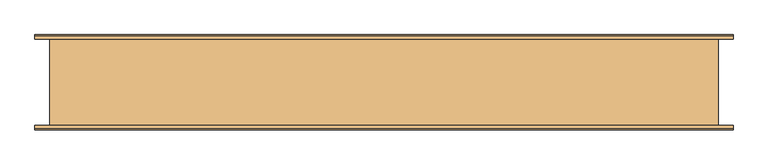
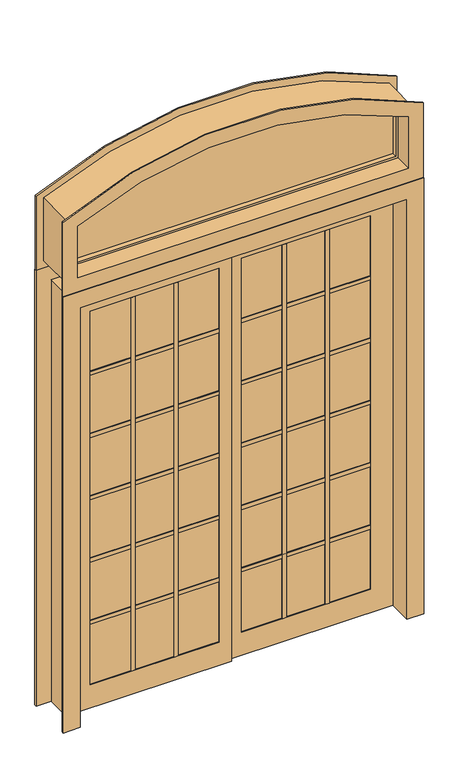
"""IFC4 building model written with IfcOpenShell, lengths in millimetres: door geometry, Pollard_Windows_Vistador Patio Doors_ATS_Extended Segmental : AVDR6080-EST1506_GC."""

from ifc_helpers import new_model, si_unit, point, frame, frame_2d, origin, place, context, project, spatial, polyline, circle_curve, trimmed, segment, composite_curve, outline, extrude, faceted_brep, source, transform, mapped, element, save
from ifc_brep_helpers import plane_surface, cylinder_surface, revolved_surface, advanced_brep


def door_b61d0d93(model_context):
    return source(origin(), model_context, "Body", "SolidModel", [
        extrude(outline(composite_curve([segment(trimmed(circle_curve(frame_2d((879.5048206, 0.0)), 1717.6665721), [point((2414.7086804, 770.4074))], [point((2414.7086804, -770.4074))], False, "CARTESIAN"), True, "CONTINUOUS"), segment(polyline([(2414.7086804, -770.4074), (2135.378, -770.4074), (2135.378, 770.4074), (2414.7086804, 770.4074)]), True, "CONTINUOUS")], self_intersect=False)), frame((0.0, -2.6145378, 0.0), z_axis=(0.0, 1.0, 0.0), x_axis=(0.0, 0.0, 1.0)), (0.0, 0.0, 1.0), 5.2290756),
        advanced_brep(
        [(770.4074, -25.4, 2135.378), (770.4074, 25.4, 2135.378), (770.4074, 25.4, 2414.7086804), (770.4074, -25.4, 2414.7086804), (740.4292258, -2.6145378, 2165.3561742), (740.4292258, -25.4, 2165.3561742), (740.4292258, -25.4, 2396.0985994), (740.4292258, -2.6145378, 2396.0985994), (750.0874, 2.6145378, 2155.698), (750.0874, -2.6145378, 2155.698), (750.0874, -2.6145378, 2402.1191113), (750.0874, 2.6145378, 2402.1191113), (740.4292258, 25.4, 2165.3561742), (740.4292258, 2.6145378, 2165.3561742), (740.4292258, 2.6145378, 2396.0985994), (740.4292258, 25.4, 2396.0985994), (-770.4074, -25.4, 2414.7086804), (-770.4074, 25.4, 2414.7086804), (-770.4074, -25.4, 2135.378), (-740.4292258, -25.4, 2396.0985994), (-740.4292258, -25.4, 2165.3561742), (-740.4292258, -2.6145378, 2396.0985994), (-750.0874, -2.6145378, 2402.1191113), (-750.0874, -2.6145378, 2155.698), (-740.4292258, -2.6145378, 2165.3561742), (-750.0874, 2.6145378, 2402.1191113), (-750.0874, 2.6145378, 2155.698), (-740.4292258, 2.6145378, 2396.0985994), (-740.4292258, 2.6145378, 2165.3561742), (-740.4292258, 25.4, 2396.0985994), (-770.4074, 25.4, 2135.378), (-740.4292258, 25.4, 2165.3561742)],
        [
            (0, 1),
            (1, 2),
            (2, 3),
            (3, 0),
            (4, 5),
            (5, 6),
            (6, 7),
            (7, 4),
            (8, 9),
            (9, 10),
            (10, 11),
            (11, 8),
            (12, 13),
            (13, 14),
            (14, 15),
            (15, 12),
            (16, 3, circle_curve(frame((0.0, -25.4, 879.5048206), z_axis=(0.0, 1.0, 0.0), x_axis=(0.45256734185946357, 0.0, 0.8917302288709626)), 1717.6665721)),
            (2, 17, circle_curve(frame((0.0, 25.4, 879.5048206), z_axis=(0.0, -1.0, 0.0), x_axis=(0.45256734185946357, 0.0, 0.8917302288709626)), 1717.6665721)),
            (17, 16),
            (16, 18),
            (18, 0),
            (19, 6, circle_curve(frame((0.0, -25.4, 879.5048206), z_axis=(0.0, 1.0, 0.0), x_axis=(0.45256734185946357, 0.0, 0.8917302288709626)), 1687.6883979)),
            (5, 20),
            (20, 19),
            (21, 7, circle_curve(frame((0.0, -2.6145378, 879.5048206), z_axis=(0.0, 1.0, 0.0), x_axis=(0.45256734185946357, 0.0, 0.8917302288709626)), 1687.6883979)),
            (19, 21),
            (22, 10, circle_curve(frame((0.0, -2.6145378, 879.5048206), z_axis=(0.0, 1.0, 0.0), x_axis=(0.45256734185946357, 0.0, 0.8917302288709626)), 1697.3465721)),
            (9, 23),
            (23, 22),
            (21, 24),
            (24, 4),
            (25, 11, circle_curve(frame((0.0, 2.6145378, 879.5048206), z_axis=(0.0, 1.0, 0.0), x_axis=(0.45256734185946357, 0.0, 0.8917302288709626)), 1697.3465721)),
            (22, 25),
            (25, 26),
            (26, 8),
            (27, 14, circle_curve(frame((0.0, 2.6145378, 879.5048206), z_axis=(0.0, 1.0, 0.0), x_axis=(0.45256734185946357, 0.0, 0.8917302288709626)), 1687.6883979)),
            (13, 28),
            (28, 27),
            (29, 15, circle_curve(frame((0.0, 25.4, 879.5048206), z_axis=(0.0, 1.0, 0.0), x_axis=(0.45256734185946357, 0.0, 0.8917302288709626)), 1687.6883979)),
            (27, 29),
            (1, 30),
            (30, 17),
            (29, 31),
            (31, 12),
            (30, 18),
            (20, 24),
            (23, 26),
            (28, 31),
        ],
        [
            plane_surface(frame((770.4074, 25.4, 2135.378), z_axis=(1.0, 0.0, 0.0), x_axis=(0.0, 0.0, 1.0))),
            plane_surface(frame((740.4292258, -25.4, 2165.3561742), z_axis=(-1.0, 0.0, 0.0), x_axis=(0.0, 0.0, 1.0))),
            plane_surface(frame((750.0874, -2.6145378, 2155.698), z_axis=(-1.0, 0.0, 0.0), x_axis=(0.0, 0.0, 1.0))),
            plane_surface(frame((740.4292258, 2.6145378, 2165.3561742), z_axis=(-1.0, 0.0, 0.0), x_axis=(0.0, 0.0, 1.0))),
            cylinder_surface(frame((0.0, 0.0, 879.5048206), z_axis=(0.0, -1.0, 0.0), x_axis=(0.45256734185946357, 0.0, 0.8917302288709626)), 1717.6665721),
            plane_surface(frame((0.0, -25.4, 879.5048206), z_axis=(0.0, -1.0, 0.0), x_axis=(0.45256734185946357, 0.0, 0.8917302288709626))),
            revolved_surface(polyline([(763.7926521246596, -25.4, 2384.4675819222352), (763.7926521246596, -2.6145378, 2384.4675819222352)]), (0.0, 0.0, 879.5048206), (0.0, -1.0, 0.0)),
            plane_surface(frame((0.0, -2.6145378, 879.5048206), z_axis=(0.0, 1.0, 0.0), x_axis=(0.45256734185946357, 0.0, 0.8917302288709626))),
            revolved_surface(polyline([(768.1636263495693, -2.6145378, 2393.080067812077), (768.1636263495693, 2.6145378, 2393.080067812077)]), (0.0, 0.0, 879.5048206), (0.0, -1.0, 0.0)),
            plane_surface(frame((0.0, 2.6145378, 879.5048206), z_axis=(0.0, -1.0, 0.0), x_axis=(0.45256734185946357, 0.0, 0.8917302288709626))),
            revolved_surface(polyline([(763.7926521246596, 2.6145378, 2384.4675819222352), (763.7926521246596, 25.4, 2384.4675819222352)]), (0.0, 0.0, 879.5048206), (0.0, -1.0, 0.0)),
            plane_surface(frame((0.0, 25.4, 879.5048206), z_axis=(0.0, 1.0, 0.0), x_axis=(0.45256734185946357, 0.0, 0.8917302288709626))),
            plane_surface(frame((-770.4074, 25.4, 2414.7086804), z_axis=(-1.0, 0.0, 0.0), x_axis=(0.0, 0.0, -1.0))),
            plane_surface(frame((-740.4292258, -25.4, 2396.0985994), z_axis=(1.0, 0.0, 0.0), x_axis=(0.0, 0.0, -1.0))),
            plane_surface(frame((-750.0874, -2.6145378, 2402.1191113), z_axis=(1.0, 0.0, 0.0), x_axis=(0.0, 0.0, -1.0))),
            plane_surface(frame((-740.4292258, 2.6145378, 2396.0985994), z_axis=(1.0, 0.0, 0.0), x_axis=(0.0, 0.0, -1.0))),
            plane_surface(frame((-770.4074, 25.4, 2135.378), z_axis=(0.0, 0.0, -1.0), x_axis=(1.0, 0.0, 0.0))),
            plane_surface(frame((-740.4292258, -25.4, 2165.3561742), z_axis=(0.0, 0.0, 1.0), x_axis=(1.0, 0.0, 0.0))),
            plane_surface(frame((-750.0874, -2.6145378, 2155.698), z_axis=(0.0, 0.0, 1.0), x_axis=(1.0, 0.0, 0.0))),
            plane_surface(frame((-740.4292258, 2.6145378, 2165.3561742), z_axis=(0.0, 0.0, 1.0), x_axis=(1.0, 0.0, 0.0))),
        ],
        [
            (0, [[1, 2, 3, 4]]),
            (1, [[5, 6, 7, 8]]),
            (2, [[9, 10, 11, 12]]),
            (3, [[13, 14, 15, 16]]),
            (4, [[17, -3, 18, 19]]),
            (5, [[-17, 20, 21, -4], [22, -6, 23, 24]]),
            (6, [[25, -7, -22, 26]]),
            (7, [[27, -10, 28, 29], [-25, 30, 31, -8]]),
            (8, [[32, -11, -27, 33]]),
            (9, [[-32, 34, 35, -12], [36, -14, 37, 38]]),
            (10, [[39, -15, -36, 40]]),
            (11, [[-18, -2, 41, 42], [-39, 43, 44, -16]]),
            (12, [[-19, -42, 45, -20]]),
            (13, [[-26, -24, 46, -30]]),
            (14, [[-33, -29, 47, -34]]),
            (15, [[-40, -38, 48, -43]]),
            (16, [[-45, -41, -1, -21]]),
            (17, [[-46, -23, -5, -31]]),
            (18, [[-47, -28, -9, -35]]),
            (19, [[-48, -37, -13, -44]]),
        ],
    ),
        advanced_brep(
        [(-818.2864, -107.95, 2443.972313), (-818.2864, -101.6, 2443.972313), (-818.2864, -101.6, 2087.499), (-818.2864, -107.95, 2087.499), (-750.0874, -25.4, 2402.1191113), (-750.0874, -101.6, 2402.1191113), (-750.0874, -107.95, 2402.1191113), (-750.0874, -107.95, 2155.698), (-750.0874, -25.4, 2155.698), (-770.4074, 25.4, 2414.7086804), (-770.4074, -25.4, 2414.7086804), (-770.4074, -25.4, 2135.378), (-770.4074, 25.4, 2135.378), (-750.0874, 107.95, 2402.1191113), (-750.0874, 25.4, 2402.1191113), (-750.0874, 25.4, 2155.698), (-750.0874, 107.95, 2155.698), (-818.2864, 101.6, 2443.972313), (-818.2864, 107.95, 2443.972313), (-818.2864, 107.95, 2087.499), (-818.2864, 101.6, 2087.499), (-783.1074, -101.6, 2422.525), (-783.1074, 101.6, 2422.525), (-783.1074, 101.6, 2122.678), (-783.1074, -101.6, 2122.678), (818.2864, -101.6, 2087.499), (818.2864, -107.95, 2087.499), (750.0874, -107.95, 2155.698), (750.0874, -25.4, 2155.698), (770.4074, -25.4, 2135.378), (770.4074, 25.4, 2135.378), (750.0874, 25.4, 2155.698), (750.0874, 107.95, 2155.698), (818.2864, 107.95, 2087.499), (818.2864, 101.6, 2087.499), (783.1074, 101.6, 2122.678), (783.1074, -101.6, 2122.678), (818.2864, -101.6, 2443.972313), (818.2864, -107.95, 2443.972313), (750.0874, -107.95, 2402.1191113), (750.0874, -101.6, 2402.1191113), (750.0874, -25.4, 2402.1191113), (770.4074, -25.4, 2414.7086804), (770.4074, 25.4, 2414.7086804), (750.0874, 25.4, 2402.1191113), (750.0874, 107.95, 2402.1191113), (818.2864, 107.95, 2443.972313), (818.2864, 101.6, 2443.972313), (783.1074, 101.6, 2422.525), (783.1074, -101.6, 2422.525)],
        [
            (0, 1),
            (1, 2),
            (2, 3),
            (3, 0),
            (4, 5),
            (5, 6),
            (6, 7),
            (7, 8),
            (8, 4),
            (9, 10),
            (10, 11),
            (11, 12),
            (12, 9),
            (13, 14),
            (14, 15),
            (15, 16),
            (16, 13),
            (17, 18),
            (18, 19),
            (19, 20),
            (20, 17),
            (21, 22),
            (22, 23),
            (23, 24),
            (24, 21),
            (2, 25),
            (25, 26),
            (26, 3),
            (7, 27),
            (27, 28),
            (28, 8),
            (11, 29),
            (29, 30),
            (30, 12),
            (15, 31),
            (31, 32),
            (32, 16),
            (19, 33),
            (33, 34),
            (34, 20),
            (23, 35),
            (35, 36),
            (36, 24),
            (25, 37),
            (37, 38),
            (38, 26),
            (27, 39),
            (39, 40),
            (40, 41),
            (41, 28),
            (29, 42),
            (42, 43),
            (43, 30),
            (31, 44),
            (44, 45),
            (45, 32),
            (33, 46),
            (46, 47),
            (47, 34),
            (35, 48),
            (48, 49),
            (49, 36),
            (1, 37, circle_curve(frame((0.0, -101.6, 879.5048206), z_axis=(0.0, 1.0, 0.0), x_axis=(0.452567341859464, 0.0, 0.8917302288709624)), 1765.5455721)),
            (49, 21, circle_curve(frame((0.0, -101.6, 879.5048206), z_axis=(0.0, -1.0, 0.0), x_axis=(0.452567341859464, 0.0, 0.8917302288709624)), 1730.3665721)),
            (0, 38, circle_curve(frame((0.0, -107.95, 879.5048206), z_axis=(0.0, 1.0, 0.0), x_axis=(0.452567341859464, 0.0, 0.8917302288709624)), 1765.5455721)),
            (6, 39, circle_curve(frame((0.0, -107.95, 879.5048206), z_axis=(0.0, 1.0, 0.0), x_axis=(0.452567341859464, 0.0, 0.8917302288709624)), 1697.3465721)),
            (5, 40, circle_curve(frame((0.0, -101.6, 879.5048206), z_axis=(0.0, 1.0, 0.0), x_axis=(0.452567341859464, 0.0, 0.8917302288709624)), 1697.3465721)),
            (4, 41, circle_curve(frame((0.0, -25.4, 879.5048206), z_axis=(0.0, 1.0, 0.0), x_axis=(0.452567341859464, 0.0, 0.8917302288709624)), 1697.3465721)),
            (10, 42, circle_curve(frame((0.0, -25.4, 879.5048206), z_axis=(0.0, 1.0, 0.0), x_axis=(0.452567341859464, 0.0, 0.8917302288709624)), 1717.6665721)),
            (9, 43, circle_curve(frame((0.0, 25.4, 879.5048206), z_axis=(0.0, 1.0, 0.0), x_axis=(0.452567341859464, 0.0, 0.8917302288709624)), 1717.6665721)),
            (14, 44, circle_curve(frame((0.0, 25.4, 879.5048206), z_axis=(0.0, 1.0, 0.0), x_axis=(0.452567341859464, 0.0, 0.8917302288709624)), 1697.3465721)),
            (13, 45, circle_curve(frame((0.0, 107.95, 879.5048206), z_axis=(0.0, 1.0, 0.0), x_axis=(0.452567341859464, 0.0, 0.8917302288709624)), 1697.3465721)),
            (18, 46, circle_curve(frame((0.0, 107.95, 879.5048206), z_axis=(0.0, 1.0, 0.0), x_axis=(0.452567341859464, 0.0, 0.8917302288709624)), 1765.5455721)),
            (17, 47, circle_curve(frame((0.0, 101.6, 879.5048206), z_axis=(0.0, 1.0, 0.0), x_axis=(0.452567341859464, 0.0, 0.8917302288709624)), 1765.5455721)),
            (22, 48, circle_curve(frame((0.0, 101.6, 879.5048206), z_axis=(0.0, 1.0, 0.0), x_axis=(0.452567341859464, 0.0, 0.8917302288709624)), 1730.3665721)),
        ],
        [
            plane_surface(frame((-818.2864, -101.6, 2443.972313), z_axis=(-1.0, 0.0, 0.0), x_axis=(0.0, 0.0, -1.0))),
            plane_surface(frame((-750.0874, -101.6, 2402.1191113), z_axis=(1.0, 0.0, 0.0), x_axis=(0.0, 0.0, -1.0))),
            plane_surface(frame((-770.4074, -25.4, 2414.7086804), z_axis=(1.0, 0.0, 0.0), x_axis=(0.0, 0.0, -1.0))),
            plane_surface(frame((-750.0874, 25.4, 2402.1191113), z_axis=(1.0, 0.0, 0.0), x_axis=(0.0, 0.0, -1.0))),
            plane_surface(frame((-818.2864, 107.95, 2443.972313), z_axis=(-1.0, 0.0, 0.0), x_axis=(0.0, 0.0, -1.0))),
            plane_surface(frame((-783.1074, 101.6, 2422.525), z_axis=(-1.0, 0.0, 0.0), x_axis=(0.0, 0.0, -1.0))),
            plane_surface(frame((-818.2864, -101.6, 2087.499), z_axis=(0.0, 0.0, -1.0), x_axis=(1.0, 0.0, 0.0))),
            plane_surface(frame((-750.0874, -101.6, 2155.698), z_axis=(0.0, 0.0, 1.0), x_axis=(1.0, 0.0, 0.0))),
            plane_surface(frame((-770.4074, -25.4, 2135.378), z_axis=(0.0, 0.0, 1.0), x_axis=(1.0, 0.0, 0.0))),
            plane_surface(frame((-750.0874, 25.4, 2155.698), z_axis=(0.0, 0.0, 1.0), x_axis=(1.0, 0.0, 0.0))),
            plane_surface(frame((-818.2864, 107.95, 2087.499), z_axis=(0.0, 0.0, -1.0), x_axis=(1.0, 0.0, 0.0))),
            plane_surface(frame((-783.1074, 101.6, 2122.678), z_axis=(0.0, 0.0, -1.0), x_axis=(1.0, 0.0, 0.0))),
            plane_surface(frame((818.2864, -101.6, 2087.499), z_axis=(1.0, 0.0, 0.0), x_axis=(0.0, 0.0, 1.0))),
            plane_surface(frame((750.0874, -101.6, 2155.698), z_axis=(-1.0, 0.0, 0.0), x_axis=(0.0, 0.0, 1.0))),
            plane_surface(frame((770.4074, -25.4, 2135.378), z_axis=(-1.0, 0.0, 0.0), x_axis=(0.0, 0.0, 1.0))),
            plane_surface(frame((750.0874, 25.4, 2155.698), z_axis=(-1.0, 0.0, 0.0), x_axis=(0.0, 0.0, 1.0))),
            plane_surface(frame((818.2864, 107.95, 2087.499), z_axis=(1.0, 0.0, 0.0), x_axis=(0.0, 0.0, 1.0))),
            plane_surface(frame((783.1074, 101.6, 2122.678), z_axis=(1.0, 0.0, 0.0), x_axis=(0.0, 0.0, 1.0))),
            plane_surface(frame((0.0, -101.6, 879.5048206), z_axis=(0.0, 1.0, 0.0), x_axis=(0.452567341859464, 0.0, 0.8917302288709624))),
            cylinder_surface(frame((0.0, 101.6, 879.5048206), z_axis=(0.0, -1.0, 0.0), x_axis=(0.452567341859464, 0.0, 0.8917302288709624)), 1765.5455721),
            plane_surface(frame((0.0, -107.95, 879.5048206), z_axis=(0.0, -1.0, 0.0), x_axis=(0.452567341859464, 0.0, 0.8917302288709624))),
            revolved_surface(polyline([(768.1636263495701, -107.95000000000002, 2393.0800678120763), (768.1636263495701, -101.6, 2393.0800678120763)]), (0.0, 101.6, 879.5048206), (0.0, -1.0, 0.0)),
            revolved_surface(polyline([(768.1636263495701, -101.6, 2393.0800678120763), (768.1636263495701, -25.400000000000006, 2393.0800678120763)]), (0.0, 101.6, 879.5048206), (0.0, -1.0, 0.0)),
            plane_surface(frame((0.0, -25.4, 879.5048206), z_axis=(0.0, 1.0, 0.0), x_axis=(0.452567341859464, 0.0, 0.8917302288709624))),
            revolved_surface(polyline([(777.3597947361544, -25.400000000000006, 2411.2000260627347), (777.3597947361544, 25.400000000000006, 2411.2000260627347)]), (0.0, 101.6, 879.5048206), (0.0, -1.0, 0.0)),
            plane_surface(frame((0.0, 25.4, 879.5048206), z_axis=(0.0, -1.0, 0.0), x_axis=(0.452567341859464, 0.0, 0.8917302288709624))),
            revolved_surface(polyline([(768.1636263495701, 25.400000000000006, 2393.0800678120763), (768.1636263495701, 107.95, 2393.0800678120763)]), (0.0, 101.6, 879.5048206), (0.0, -1.0, 0.0)),
            plane_surface(frame((0.0, 107.95, 879.5048206), z_axis=(0.0, 1.0, 0.0), x_axis=(0.452567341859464, 0.0, 0.8917302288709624))),
            plane_surface(frame((0.0, 101.6, 879.5048206), z_axis=(0.0, -1.0, 0.0), x_axis=(0.452567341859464, 0.0, 0.8917302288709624))),
            cylinder_surface(frame((0.0, 101.6, 879.5048206), z_axis=(0.0, -1.0, 0.0), x_axis=(0.452567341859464, 0.0, 0.8917302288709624)), 1730.3665721),
        ],
        [
            (0, [[1, 2, 3, 4]]),
            (1, [[5, 6, 7, 8, 9]]),
            (2, [[10, 11, 12, 13]]),
            (3, [[14, 15, 16, 17]]),
            (4, [[18, 19, 20, 21]]),
            (5, [[22, 23, 24, 25]]),
            (6, [[-3, 26, 27, 28]]),
            (7, [[-8, 29, 30, 31]]),
            (8, [[-12, 32, 33, 34]]),
            (9, [[-16, 35, 36, 37]]),
            (10, [[-20, 38, 39, 40]]),
            (11, [[-24, 41, 42, 43]]),
            (12, [[-27, 44, 45, 46]]),
            (13, [[-30, 47, 48, 49, 50]]),
            (14, [[-33, 51, 52, 53]]),
            (15, [[-36, 54, 55, 56]]),
            (16, [[-39, 57, 58, 59]]),
            (17, [[-42, 60, 61, 62]]),
            (18, [[63, -44, -26, -2], [-43, -62, 64, -25]]),
            (19, [[65, -45, -63, -1]]),
            (20, [[-28, -46, -65, -4], [66, -47, -29, -7]]),
            (21, [[67, -48, -66, -6]]),
            (22, [[68, -49, -67, -5]]),
            (23, [[69, -51, -32, -11], [-31, -50, -68, -9]]),
            (24, [[70, -52, -69, -10]]),
            (25, [[-34, -53, -70, -13], [71, -54, -35, -15]]),
            (26, [[72, -55, -71, -14]]),
            (27, [[73, -57, -38, -19], [-37, -56, -72, -17]]),
            (19, [[74, -58, -73, -18]]),
            (28, [[-40, -59, -74, -21], [75, -60, -41, -23]]),
            (29, [[-64, -61, -75, -22]]),
        ],
    ),
        extrude(outline(polyline([(-54.991, -10.0399998), (-640.1054, -10.0399998), (-640.1054, -4.9599998), (-54.991, -4.9599998), (-54.991, -10.0399998)])), frame((0.0, 0.0, 109.982), z_axis=(0.0, 0.0, 1.0), x_axis=(1.0, 0.0, 0.0)), (0.0, 0.0, 1.0), 1790.586),
        extrude(outline(polyline([(454.0672667, 14.9999996), (454.0672667, 9.9999998), (449.0672667, 9.9999998), (449.0672667, 4.9999998), (454.0672667, 4.9999998), (454.0672667, 0.0), (436.0672667, 0.0), (436.0672667, 4.9999998), (441.0672667, 4.9999998), (441.0672667, 9.9999998), (436.0672667, 9.9999998), (436.0672667, 14.9999996), (454.0672667, 14.9999996)])), frame((0.0, 0.0, 109.982), z_axis=(0.0, 0.0, 1.0), x_axis=(1.0, 0.0, 0.0)), (0.0, 0.0, 1.0), 1790.586),
        extrude(outline(polyline([(259.0291333, 14.9999996), (259.0291333, 9.9999998), (254.0291333, 9.9999998), (254.0291333, 4.9999998), (259.0291333, 4.9999998), (259.0291333, 0.0), (241.0291333, 0.0), (241.0291333, 4.9999998), (246.0291333, 4.9999998), (246.0291333, 9.9999998), (241.0291333, 9.9999998), (241.0291333, 14.9999996), (259.0291333, 14.9999996)])), frame((0.0, 0.0, 109.982), z_axis=(0.0, 0.0, 1.0), x_axis=(1.0, 0.0, 0.0)), (0.0, 0.0, 1.0), 1790.586),
        extrude(outline(polyline([(-241.0291333, 0.0), (-241.0291333, -4.9999998), (-246.0291333, -4.9999998), (-246.0291333, -9.9999998), (-241.0291333, -9.9999998), (-241.0291333, -14.9999996), (-259.0291333, -14.9999996), (-259.0291333, -9.9999998), (-254.0291333, -9.9999998), (-254.0291333, -4.9999998), (-259.0291333, -4.9999998), (-259.0291333, 0.0), (-241.0291333, 0.0)])), frame((0.0, 0.0, 109.982), z_axis=(0.0, 0.0, 1.0), x_axis=(1.0, 0.0, 0.0)), (0.0, 0.0, 1.0), 1790.586),
        extrude(outline(polyline([(-436.0672667, 0.0), (-436.0672667, -4.9999998), (-441.0672667, -4.9999998), (-441.0672667, -9.9999998), (-436.0672667, -9.9999998), (-436.0672667, -14.9999996), (-454.0672667, -14.9999996), (-454.0672667, -9.9999998), (-449.0672667, -9.9999998), (-449.0672667, -4.9999998), (-454.0672667, -4.9999998), (-454.0672667, 0.0), (-436.0672667, 0.0)])), frame((0.0, 0.0, 109.982), z_axis=(0.0, 0.0, 1.0), x_axis=(1.0, 0.0, 0.0)), (0.0, 0.0, 1.0), 1790.586),
        extrude(outline(polyline([(54.991, 10.0399998), (640.1054, 10.0399998), (640.1054, 4.9599998), (54.991, 4.9599998), (54.991, 10.0399998)])), frame((0.0, 0.0, 109.982), z_axis=(0.0, 0.0, 1.0), x_axis=(1.0, 0.0, 0.0)), (0.0, 0.0, 1.0), 1790.586),
        extrude(outline(polyline([(2010.55, 741.3374), (2010.55, 0.0), (0.0, 0.0), (0.0, 741.3374), (2010.55, 741.3374)]), holes=[polyline([(109.982, 640.1054), (109.982, 54.991), (1900.568, 54.991), (1900.568, 640.1054), (109.982, 640.1054)])]), frame((0.0, 0.0, 0.0), z_axis=(0.0, 1.0, 0.0), x_axis=(0.0, 0.0, 1.0)), (0.0, 0.0, 1.0), 14.9999996),
        extrude(outline(polyline([(2010.55, -741.3374), (0.0, -741.3374), (0.0, 0.0), (2010.55, 0.0), (2010.55, -741.3374)]), holes=[polyline([(1900.568, -640.1054), (1900.568, -54.991), (109.982, -54.991), (109.982, -640.1054), (1900.568, -640.1054)])]), frame((0.0, -14.9999996, 0.0), z_axis=(0.0, 1.0, 0.0), x_axis=(0.0, 0.0, 1.0)), (0.0, 0.0, 1.0), 14.9999996),
        faceted_brep([(818.2864, 111.6, 0.0), (818.2864, 101.6, 0.0), (750.0874, 101.6, 0.0), (750.0874, -101.6, 0.0), (818.2864, -101.6, 0.0), (818.2864, -111.6, 0.0), (741.3374, -111.6, 0.0), (741.3374, 111.6, 0.0), (818.2864, 111.6, 2087.499), (818.2864, 101.6, 2087.499), (-818.2864, 101.6, 2087.499), (-818.2864, 101.6, 0.0), (-750.0874, 101.6, 0.0), (-750.0874, 101.6, 2019.3), (750.0874, 101.6, 2019.3), (750.0874, -101.6, 2019.3), (-750.0874, -101.6, 2019.3), (-750.0874, -101.6, 0.0), (-818.2864, -101.6, 0.0), (-818.2864, -101.6, 2087.499), (818.2864, -101.6, 2087.499), (818.2864, -111.6, 2087.499), (-818.2864, -111.6, 2087.499), (-818.2864, -111.6, 0.0), (-741.3374, -111.6, 0.0), (-741.3374, -111.6, 2010.55), (741.3374, -111.6, 2010.55), (741.3374, 111.6, 2010.55), (-741.3374, 111.6, 2010.55), (-741.3374, 111.6, 0.0), (-818.2864, 111.6, 0.0), (-818.2864, 111.6, 2087.499)], [[[0, 1, 2, 3, 4, 5, 6, 7]], [[1, 0, 8, 9]], [[2, 1, 9, 10, 11, 12, 13, 14]], [[2, 14, 15, 3]], [[4, 3, 15, 16, 17, 18, 19, 20]], [[5, 4, 20, 21]], [[6, 5, 21, 22, 23, 24, 25, 26]], [[6, 26, 27, 7]], [[0, 7, 27, 28, 29, 30, 31, 8]], [[30, 29, 24, 23, 18, 17, 12, 11]], [[28, 25, 24, 29]], [[22, 19, 18, 23]], [[16, 13, 12, 17]], [[10, 31, 30, 11]], [[9, 8, 31, 10]], [[27, 26, 25, 28]], [[15, 14, 13, 16]], [[21, 20, 19, 22]]]),
        extrude(outline(polyline([(14.9999996, 1014.275), (14.9999996, 996.275), (9.9999998, 996.275), (9.9999998, 1001.275), (4.9999998, 1001.275), (4.9999998, 996.275), (0.0, 996.275), (0.0, 1014.275), (4.9999998, 1014.275), (4.9999998, 1009.275), (9.9999998, 1009.275), (9.9999998, 1014.275), (14.9999996, 1014.275)])), frame((54.991, 0.0, 0.0), z_axis=(1.0, 0.0, 0.0), x_axis=(0.0, 1.0, 0.0)), (0.0, 0.0, 1.0), 585.1144),
        extrude(outline(polyline([(14.9999996, 1611.137), (14.9999996, 1593.137), (9.9999998, 1593.137), (9.9999998, 1598.137), (4.9999998, 1598.137), (4.9999998, 1593.137), (0.0, 1593.137), (0.0, 1611.137), (4.9999998, 1611.137), (4.9999998, 1606.137), (9.9999998, 1606.137), (9.9999998, 1611.137), (14.9999996, 1611.137)])), frame((54.991, 0.0, 0.0), z_axis=(1.0, 0.0, 0.0), x_axis=(0.0, 1.0, 0.0)), (0.0, 0.0, 1.0), 585.1144),
        extrude(outline(polyline([(-14.9999996, 1593.137), (-14.9999996, 1611.137), (-9.9999998, 1611.137), (-9.9999998, 1606.137), (-4.9999998, 1606.137), (-4.9999998, 1611.137), (0.0, 1611.137), (0.0, 1593.137), (-4.9999998, 1593.137), (-4.9999998, 1598.137), (-9.9999998, 1598.137), (-9.9999998, 1593.137), (-14.9999996, 1593.137)])), frame((-640.1054, 0.0, 0.0), z_axis=(1.0, 0.0, 0.0), x_axis=(0.0, 1.0, 0.0)), (0.0, 0.0, 1.0), 585.1144),
        extrude(outline(polyline([(14.9999996, 1312.706), (14.9999996, 1294.706), (9.9999998, 1294.706), (9.9999998, 1299.706), (4.9999998, 1299.706), (4.9999998, 1294.706), (0.0, 1294.706), (0.0, 1312.706), (4.9999998, 1312.706), (4.9999998, 1307.706), (9.9999998, 1307.706), (9.9999998, 1312.706), (14.9999996, 1312.706)])), frame((54.991, 0.0, 0.0), z_axis=(1.0, 0.0, 0.0), x_axis=(0.0, 1.0, 0.0)), (0.0, 0.0, 1.0), 585.1144),
        extrude(outline(polyline([(-14.9999996, 1294.706), (-14.9999996, 1312.706), (-9.9999998, 1312.706), (-9.9999998, 1307.706), (-4.9999998, 1307.706), (-4.9999998, 1312.706), (0.0, 1312.706), (0.0, 1294.706), (-4.9999998, 1294.706), (-4.9999998, 1299.706), (-9.9999998, 1299.706), (-9.9999998, 1294.706), (-14.9999996, 1294.706)])), frame((-640.1054, 0.0, 0.0), z_axis=(1.0, 0.0, 0.0), x_axis=(0.0, 1.0, 0.0)), (0.0, 0.0, 1.0), 585.1144),
        extrude(outline(polyline([(14.9999996, 715.844), (14.9999996, 697.844), (9.9999998, 697.844), (9.9999998, 702.844), (4.9999998, 702.844), (4.9999998, 697.844), (0.0, 697.844), (0.0, 715.844), (4.9999998, 715.844), (4.9999998, 710.844), (9.9999998, 710.844), (9.9999998, 715.844), (14.9999996, 715.844)])), frame((54.991, 0.0, 0.0), z_axis=(1.0, 0.0, 0.0), x_axis=(0.0, 1.0, 0.0)), (0.0, 0.0, 1.0), 585.1144),
        extrude(outline(polyline([(-14.9999996, 697.844), (-14.9999996, 715.844), (-9.9999998, 715.844), (-9.9999998, 710.844), (-4.9999998, 710.844), (-4.9999998, 715.844), (0.0, 715.844), (0.0, 697.844), (-4.9999998, 697.844), (-4.9999998, 702.844), (-9.9999998, 702.844), (-9.9999998, 697.844), (-14.9999996, 697.844)])), frame((-640.1054, 0.0, 0.0), z_axis=(1.0, 0.0, 0.0), x_axis=(0.0, 1.0, 0.0)), (0.0, 0.0, 1.0), 585.1144),
        extrude(outline(polyline([(14.9999996, 417.413), (14.9999996, 399.413), (9.9999998, 399.413), (9.9999998, 404.413), (4.9999998, 404.413), (4.9999998, 399.413), (0.0, 399.413), (0.0, 417.413), (4.9999998, 417.413), (4.9999998, 412.413), (9.9999998, 412.413), (9.9999998, 417.413), (14.9999996, 417.413)])), frame((54.991, 0.0, 0.0), z_axis=(1.0, 0.0, 0.0), x_axis=(0.0, 1.0, 0.0)), (0.0, 0.0, 1.0), 585.1144),
        extrude(outline(polyline([(-14.9999996, 399.413), (-14.9999996, 417.413), (-9.9999998, 417.413), (-9.9999998, 412.413), (-4.9999998, 412.413), (-4.9999998, 417.413), (0.0, 417.413), (0.0, 399.413), (-4.9999998, 399.413), (-4.9999998, 404.413), (-9.9999998, 404.413), (-9.9999998, 399.413), (-14.9999996, 399.413)])), frame((-640.1054, 0.0, 0.0), z_axis=(1.0, 0.0, 0.0), x_axis=(0.0, 1.0, 0.0)), (0.0, 0.0, 1.0), 585.1144),
        extrude(outline(polyline([(-14.9999996, 996.275), (-14.9999996, 1014.275), (-9.9999998, 1014.275), (-9.9999998, 1009.275), (-4.9999998, 1009.275), (-4.9999998, 1014.275), (0.0, 1014.275), (0.0, 996.275), (-4.9999998, 996.275), (-4.9999998, 1001.275), (-9.9999998, 1001.275), (-9.9999998, 996.275), (-14.9999996, 996.275)])), frame((-640.1054, 0.0, 0.0), z_axis=(1.0, 0.0, 0.0), x_axis=(0.0, 1.0, 0.0)), (0.0, 0.0, 1.0), 585.1144),
    ])


if __name__ == "__main__":
    model = new_model("IFC4")
    model_context = context("Model", 3, world=origin())
    ifc_project = project(units=[si_unit("LENGTHUNIT", "METRE", prefix="MILLI")], contexts=[model_context])
    site = spatial("IfcSite", under=ifc_project)
    building = spatial("IfcBuilding", under=site)
    placement = place(None, origin())
    door_shape = door_b61d0d93(model_context)
    element("IfcDoor", 1, ObjectType="Pollard_Windows_Vistador Patio Doors_ATS_Extended Segmental : AVDR6080-EST1506_GC", at=placement, inside=building, context=model_context, shape_type="MappedRepresentation", body=[
        mapped(door_shape, transform((0.0, 0.0, 0.0), x_axis=(1.0, 0.0, 0.0), y_axis=(0.0, 1.0, 0.0), z_axis=(0.0, 0.0, 1.0))),
    ])
    save(model, "model.ifc")
